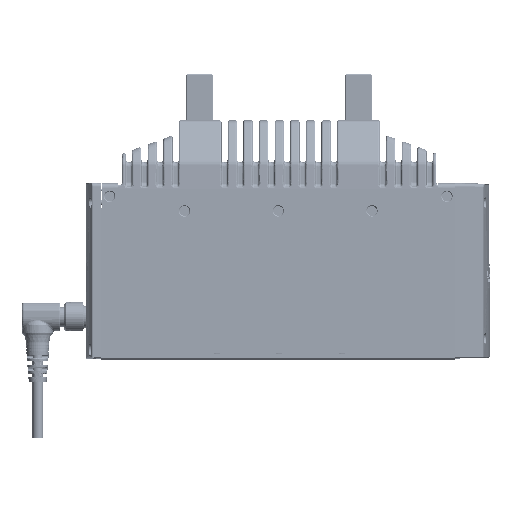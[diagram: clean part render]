
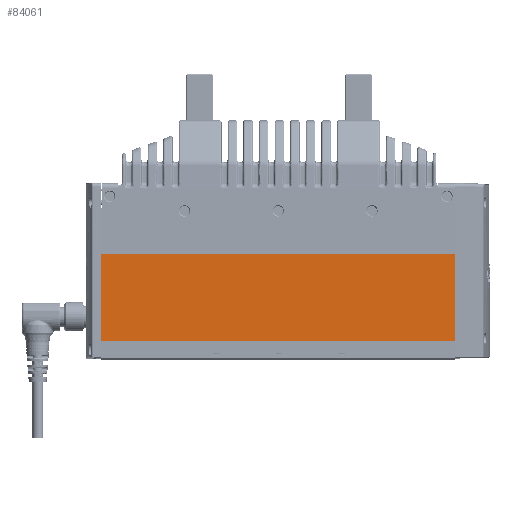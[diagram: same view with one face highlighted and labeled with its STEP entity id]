
A CAD part, top view. The second image highlights one B-rep face of the part: STEP entity #84061.
In plain terms, the highlighted planar face has unit normal (0, 0, 1).
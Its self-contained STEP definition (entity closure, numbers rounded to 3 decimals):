
#5618=PLANE('',#92238);
#9952=FACE_OUTER_BOUND('',#14906,.T.);
#14906=EDGE_LOOP('',(#69922,#69923,#69924,#69925));
#24937=LINE('',#186205,#30035);
#24968=LINE('',#186265,#30066);
#24973=LINE('',#186274,#30071);
#24975=LINE('',#186277,#30073);
#30035=VECTOR('',#111154,1000.);
#30066=VECTOR('',#111187,1000.);
#30071=VECTOR('',#111194,1000.);
#30073=VECTOR('',#111198,1000.);
#38648=VERTEX_POINT('',#186202);
#38649=VERTEX_POINT('',#186204);
#38676=VERTEX_POINT('',#186262);
#38677=VERTEX_POINT('',#186264);
#49643=EDGE_CURVE('',#38648,#38649,#24937,.T.);
#49674=EDGE_CURVE('',#38677,#38676,#24968,.T.);
#49679=EDGE_CURVE('',#38648,#38677,#24973,.T.);
#49681=EDGE_CURVE('',#38649,#38676,#24975,.T.);
#69922=ORIENTED_EDGE('',*,*,#49674,.T.);
#69923=ORIENTED_EDGE('',*,*,#49681,.F.);
#69924=ORIENTED_EDGE('',*,*,#49643,.F.);
#69925=ORIENTED_EDGE('',*,*,#49679,.T.);
#84061=ADVANCED_FACE('',(#9952),#5618,.F.);
#92238=AXIS2_PLACEMENT_3D('',#186276,#111196,#111197);
#111154=DIRECTION('',(0.,-1.,0.));
#111187=DIRECTION('',(0.,-1.,0.));
#111194=DIRECTION('',(-1.,0.,0.));
#111196=DIRECTION('center_axis',(0.,0.,
-1.));
#111197=DIRECTION('ref_axis',(0.,1.,0.));
#111198=DIRECTION('',(-1.,0.,0.));
#186202=CARTESIAN_POINT('',(84.5,50.5,23.7));
#186204=CARTESIAN_POINT('',(84.5,9.122,23.7));
#186205=CARTESIAN_POINT('',(84.5,50.5,23.7));
#186262=CARTESIAN_POINT('',(-85.5,9.122,23.7));
#186264=CARTESIAN_POINT('',(-85.5,50.5,23.7));
#186265=CARTESIAN_POINT('',(-85.5,50.5,23.7));
#186274=CARTESIAN_POINT('',(84.5,50.5,23.7));
#186276=CARTESIAN_POINT('Origin',(84.5,50.5,23.7));
#186277=CARTESIAN_POINT('',(84.5,9.122,23.7));
